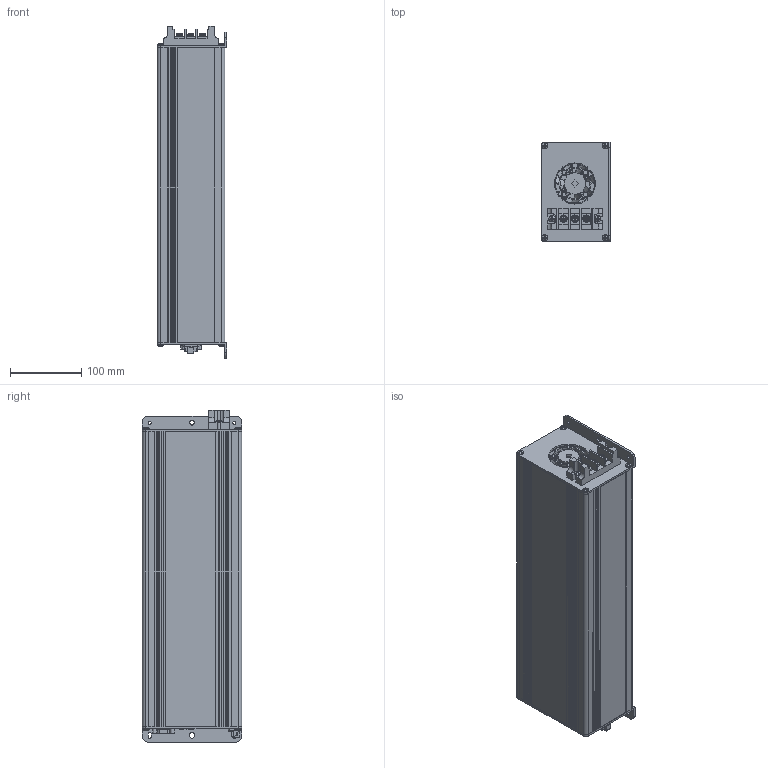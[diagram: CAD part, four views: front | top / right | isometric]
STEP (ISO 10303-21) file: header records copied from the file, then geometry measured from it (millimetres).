
FILE_DESCRIPTION(/* description */ ('','CAx-IF Rec.Pracs.---Representation and Presentation of Product Manufacturing Information (PMI)---4.0---2014-10-13'),/* implementation_level */ '2;1');
FILE_NAME(/* name */ 'H:\04_배터리_전기종\고부하용 배터리 케이스_3D\[NEW] DHCOM 설계자용\DH415COM.stp',/* time_stamp */ '2022-06-16T14:42:34+09:00',/* author */ ('jjang'),/* organization */ (''),/* preprocessor_version */ 'ST-DEVELOPER v18.1',/* originating_system */ 'Autodesk Inventor 2021',/* authorisation */ '');
FILE_SCHEMA (('AP242_MANAGED_MODEL_BASED_3D_ENGINEERING_MIM_LF { 1 0 10303 442 1 1 4 }'));
Products named in the file (1): DH415COM_Shrinkwrap_1
Bounding box: 98.5 x 140 x 467.5 mm (x, y, z)
Volume: 754081.4 mm3; surface area: 529046.6 mm2
Topology: 3 solids, 3 shells, 2625 faces, 8369 edges, 6007 vertices
Faces by surface type: plane 1466, cylinder 658, bspline 392, torus 81, sphere 17, cone 11
Full cylindrical faces by diameter (mm): 0.457 x2, 0.61 x27, 0.635 x9, 0.9 x2, 1.397 x9, 2.286 x9, 2.4 x2, 2.8 x6, 2.9 x2, 3.048 x4, 3.8 x10, 3.9 x2, 4 x3, 4.3 x4, 4.4 x2, 4.5 x10, 5 x8, 5.5 x6, 6 x3, 6.082 x1, 6.5 x1, 8 x1, 8.584 x3, 8.6 x3, 8.8 x8, 9.2 x2, 10 x1, 25.4 x1, 55.4 x1
Entity records: 111247 total; most frequent: CARTESIAN_POINT 36827, ORIENTED_EDGE 16708, DIRECTION 12828, EDGE_CURVE 8354, VERTEX_POINT 6006, LINE 4410, VECTOR 4410, AXIS2_PLACEMENT_3D 4209
